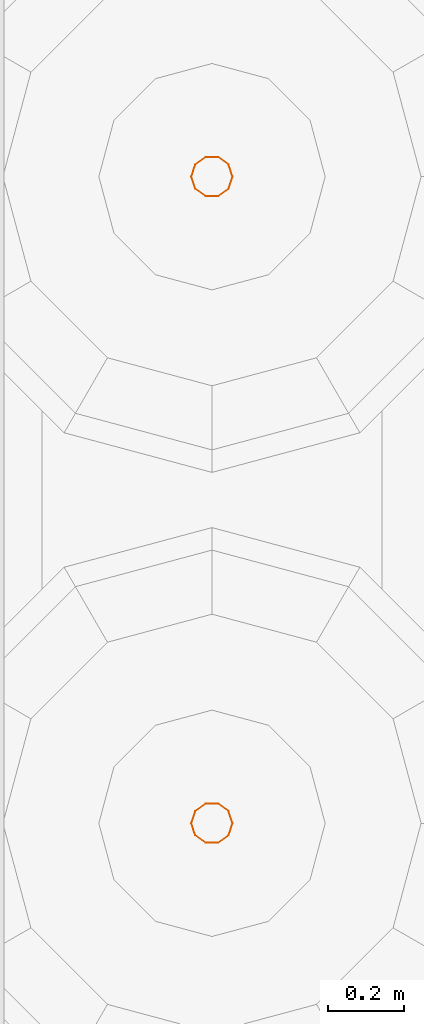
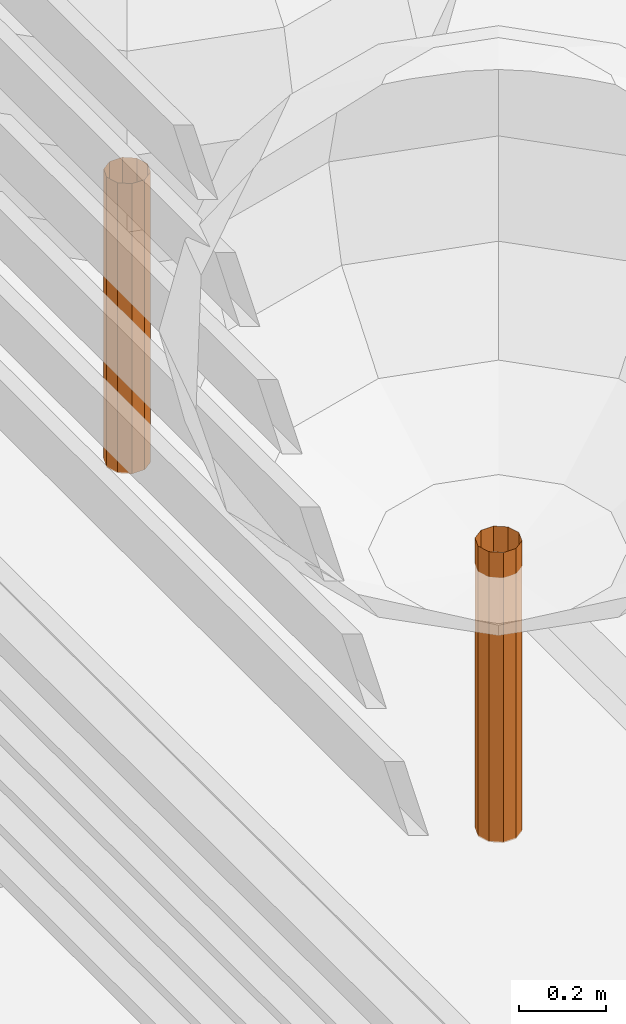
# One storey, part 175 of 177: 2 geographic elements.
"""IFC4 building model written with IfcOpenShell, lengths in metres."""

from ifc_helpers import new_model, si_unit, origin, origin_with_axes, place, context, subcontext, project, spatial, triangles, element, save


model = new_model("IFC4")

# Units and contexts
model_context = context("Model", 3, precision=1e-05, world=origin_with_axes())
body_context = subcontext(model_context, "Body", "Model", "MODEL_VIEW")
ifc_project = project(units=[si_unit("LENGTHUNIT", "METRE"), si_unit("AREAUNIT", "SQUARE_METRE"), si_unit("VOLUMEUNIT", "CUBIC_METRE"), si_unit("PLANEANGLEUNIT", "RADIAN")], contexts=[model_context])

# Site, building, storey
site_placement = place(None, origin_with_axes())
site = spatial("IfcSite", under=ifc_project, at=site_placement, Name="Predio Los Mangos - Morales, San Martín", CompositionType="ELEMENT")
building_placement = place(site_placement, origin())
building = spatial("IfcBuilding", under=site, at=building_placement, Name="Hogar de Refugio Temporal", CompositionType="ELEMENT")
storey_placement = place(building_placement, origin())
storey = spatial("IfcBuildingStorey", under=building, at=storey_placement, Name="NIVEL 1 (NPT +0.00)", CompositionType="ELEMENT", Elevation=0.0)

# Geographic elements
geographic_element_1_placement = place(storey_placement, origin())
element("IfcGeographicElement", 1, at=geographic_element_1_placement, inside=storey, Name="arbol_tronco", ObjectType="Árbol", PredefinedType="NOTDEFINED", context=body_context, shape_type="Tessellation", body=[
    triangles([(38.4544, 39.245, 0.45), (38.444, 39.277, 0.45), (38.4168, 39.2967, 0.45), (38.3832, 39.2967, 0.45), (38.356, 39.277, 0.45), (38.3456, 39.245, 0.45), (38.356, 39.213, 0.45), (38.3832, 39.1933, 0.45), (38.4168, 39.1933, 0.45), (38.444, 39.213, 0.45), (38.4544, 39.245, 1.266), (38.444, 39.277, 1.266), (38.4168, 39.2967, 1.266), (38.3832, 39.2967, 1.266), (38.356, 39.277, 1.266), (38.3456, 39.245, 1.266), (38.356, 39.213, 1.266), (38.3832, 39.1933, 1.266), (38.4168, 39.1933, 1.266), (38.444, 39.213, 1.266)], [[1, 2, 12], [2, 3, 13], [3, 4, 14], [4, 5, 15], [5, 6, 16], [6, 7, 17], [7, 8, 18], [8, 9, 19], [9, 10, 20], [10, 1, 11], [1, 12, 11], [2, 13, 12], [3, 14, 13], [4, 15, 14], [5, 16, 15], [6, 17, 16], [7, 18, 17], [8, 19, 18], [9, 20, 19], [10, 11, 20]]),
])
geographic_element_2_placement = place(storey_placement, origin())
element("IfcGeographicElement", 2, at=geographic_element_2_placement, inside=storey, Name="arbol_tronco", ObjectType="Árbol", PredefinedType="NOTDEFINED", context=body_context, shape_type="Tessellation", body=[
    triangles([(38.4544, 40.955, 0.45), (38.444, 40.987, 0.45), (38.4168, 41.0067, 0.45), (38.3832, 41.0067, 0.45), (38.356, 40.987, 0.45), (38.3456, 40.955, 0.45), (38.356, 40.923, 0.45), (38.3832, 40.9033, 0.45), (38.4168, 40.9033, 0.45), (38.444, 40.923, 0.45), (38.4544, 40.955, 1.266), (38.444, 40.987, 1.266), (38.4168, 41.0067, 1.266), (38.3832, 41.0067, 1.266), (38.356, 40.987, 1.266), (38.3456, 40.955, 1.266), (38.356, 40.923, 1.266), (38.3832, 40.9033, 1.266), (38.4168, 40.9033, 1.266), (38.444, 40.923, 1.266)], [[1, 2, 12], [2, 3, 13], [3, 4, 14], [4, 5, 15], [5, 6, 16], [6, 7, 17], [7, 8, 18], [8, 9, 19], [9, 10, 20], [10, 1, 11], [1, 12, 11], [2, 13, 12], [3, 14, 13], [4, 15, 14], [5, 16, 15], [6, 17, 16], [7, 18, 17], [8, 19, 18], [9, 20, 19], [10, 11, 20]]),
])

save(model, "model.ifc")
